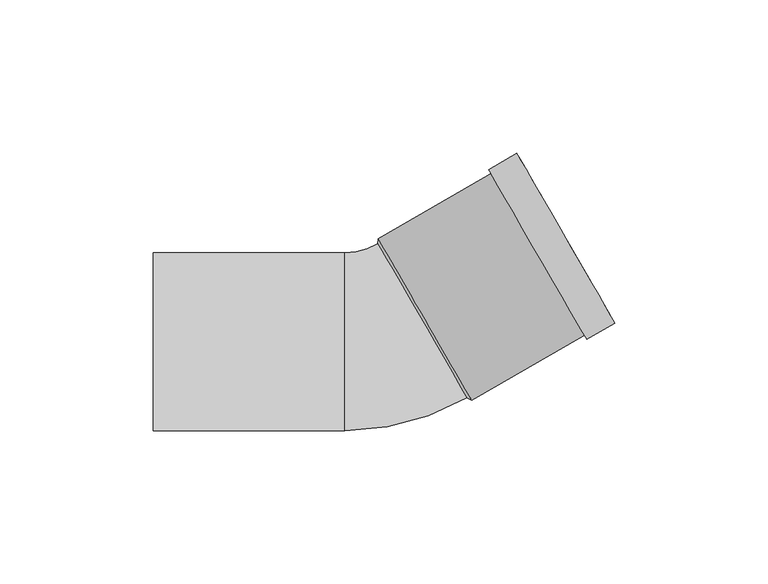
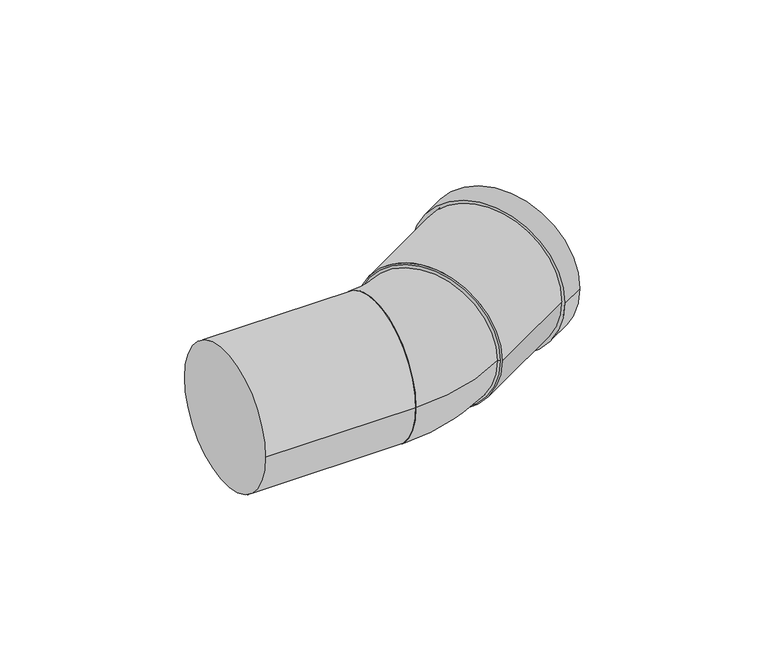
"""IFC4 building model written with IfcOpenShell, lengths in millimetres: pipe fitting geometry, Superdrain SKB Bend : Superdrain SKB Bend."""

from ifc_helpers import new_model, si_unit, point, frame, origin, origin_2d, place, context, project, spatial, polyline, circle_curve, ellipse_curve, trimmed, segment, composite_curve, outline, extrude, source, transform, mapped, element, save
from ifc_brep_helpers import plane_surface, revolved_surface, advanced_brep


def pipe_fitting_42c9a68a(model_context):
    return source(origin(), model_context, "Body", "SolidModel", [
        advanced_brep(
        [(26.2779455, -18.3147367, 0.0), (-2.7220545, 31.9147367, 0.0), (-13.6, -29.0, 0.0), (-13.6, 29.0, 0.0)],
        [
            (0, 1, circle_curve(frame((11.7779455, 6.8, 0.0), z_axis=(0.8660254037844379, 0.5000000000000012, 0.0), x_axis=(-0.5000000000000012, 0.8660254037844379, 0.0)), 29.0)),
            (1, 0, circle_curve(frame((11.7779455, 6.8, 0.0), z_axis=(0.8660254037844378, 0.5000000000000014, 0.0), x_axis=(-0.5000000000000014, 0.8660254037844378, 0.0)), 29.0)),
            (2, 3, circle_curve(frame((-13.6, 0.0, 0.0), z_axis=(-1.0, 0.0, 0.0), x_axis=(0.0, 1.0, 0.0)), 29.0)),
            (3, 2, circle_curve(frame((-13.6, 0.0, 0.0), z_axis=(-1.0, 0.0, 0.0), x_axis=(0.0, 1.0, 0.0)), 29.0)),
            (3, 1, circle_curve(frame((-13.6, 50.755891, 0.0), z_axis=(0.0, 0.0, 1.0), x_axis=(1.0, 0.0, 0.0)), 21.755891)),
            (0, 2, circle_curve(frame((-13.6, 50.755891, 0.0), z_axis=(0.0, 0.0, -1.0), x_axis=(1.0, 0.0, 0.0)), 79.755891)),
        ],
        [
            plane_surface(frame((11.7779455, 6.8, 0.0), z_axis=(0.8660254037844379, 0.5000000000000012, 0.0), x_axis=(0.0, 0.0, -1.0))),
            plane_surface(frame((-13.6, 0.0, 0.0), z_axis=(-1.0, 0.0, 0.0), x_axis=(0.0, 0.0, -1.0))),
            revolved_surface(trimmed(ellipse_curve(frame((37.155891, 50.755891, 0.0), z_axis=(0.0, -1.0, 0.0), x_axis=(-1.0, 0.0, 0.0)), 29.0, 29.0), [point((8.155891, 50.755891, 0.0))], [point((66.155891, 50.755891, 0.0))], True, "CARTESIAN"), (-13.6, 50.755891, 0.0), (0.0, 0.0, 1.0)),
            revolved_surface(trimmed(ellipse_curve(frame((37.155891, 50.755891, 0.0), z_axis=(0.0, -1.0, 0.0), x_axis=(-1.0, 0.0, 0.0)), 29.0, 29.0), [point((66.155891, 50.755891, 0.0))], [point((8.155891, 50.755891, 0.0))], True, "CARTESIAN"), (-13.6, 50.755891, 0.0), (0.0, 0.0, 1.0)),
        ],
        [
            (0, [[1, 2]]),
            (1, [[3, 4]]),
            (2, [[-4, 5, -1, 6]]),
            (3, [[-3, -6, -2, -5]]),
        ],
    ),
        extrude(outline(composite_curve([segment(trimmed(circle_curve(origin_2d(), 30.45), [point((0.0, 30.45))], [point((0.0, -30.45))], False, "CARTESIAN"), True, "CONTINUOUS"), segment(trimmed(circle_curve(origin_2d(), 30.45), [point((0.0, -30.45))], [point((0.0, 30.45))], False, "CARTESIAN"), True, "CONTINUOUS")], self_intersect=False), holes=[composite_curve([segment(trimmed(circle_curve(origin_2d(), 29.0), [point((0.0, 29.0))], [point((0.0, -29.0))], True, "CARTESIAN"), True, "CONTINUOUS"), segment(trimmed(circle_curve(origin_2d(), 29.0), [point((0.0, -29.0))], [point((0.0, 29.0))], True, "CARTESIAN"), True, "CONTINUOUS")], self_intersect=False)]), frame((12.6439709, 7.3, 0.0), z_axis=(0.866025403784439, 0.49999999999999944, 0.0), x_axis=(0.0, 0.0, 1.0)), (0.0, 0.0, 1.0), 53.0),
        extrude(outline(composite_curve([segment(trimmed(circle_curve(origin_2d(), 31.9725), [point((0.0, -31.9725))], [point((0.0, 31.9725))], False, "CARTESIAN"), True, "CONTINUOUS"), segment(trimmed(circle_curve(origin_2d(), 31.9725), [point((0.0, 31.9725))], [point((0.0, -31.9725))], False, "CARTESIAN"), True, "CONTINUOUS")], self_intersect=False), holes=[composite_curve([segment(trimmed(circle_curve(origin_2d(), 29.0), [point((0.0, -29.0))], [point((0.0, 29.0))], True, "CARTESIAN"), True, "CONTINUOUS"), segment(trimmed(circle_curve(origin_2d(), 29.0), [point((0.0, 29.0))], [point((0.0, -29.0))], True, "CARTESIAN"), True, "CONTINUOUS")], self_intersect=False)]), frame((49.363448, 28.5, 0.0), z_axis=(0.8660254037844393, 0.4999999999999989, 0.0), x_axis=(0.0, 0.0, 1.0)), (0.0, 0.0, 1.0), 10.6),
        advanced_brep(
        [(27.8689709, -19.0704735, 0.0), (-2.5810291, 33.6704735, 0.0), (26.2779455, -18.3147367, 0.0), (-2.7220545, 31.9147367, 0.0)],
        [
            (0, 1, circle_curve(frame((12.6439709, 7.3, 0.0), z_axis=(0.8660254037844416, 0.49999999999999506, 0.0), x_axis=(0.499999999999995, -0.8660254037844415, 0.0)), 30.45)),
            (1, 0, circle_curve(frame((12.6439709, 7.3, 0.0), z_axis=(0.8660254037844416, 0.49999999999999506, 0.0), x_axis=(-0.499999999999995, 0.8660254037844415, 0.0)), 30.45)),
            (2, 3, circle_curve(frame((11.7779455, 6.8, 0.0), z_axis=(-0.8660254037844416, -0.49999999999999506, 0.0), x_axis=(-0.499999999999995, 0.8660254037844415, 0.0)), 29.0)),
            (3, 2, circle_curve(frame((11.7779455, 6.8, 0.0), z_axis=(-0.8660254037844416, -0.49999999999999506, 0.0), x_axis=(0.499999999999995, -0.8660254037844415, 0.0)), 29.0)),
            (3, 1),
            (0, 2),
        ],
        [
            plane_surface(frame((12.6439709, 7.3, 0.0), z_axis=(0.8660254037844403, 0.4999999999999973, 0.0), x_axis=(0.0, 0.0, -1.0))),
            plane_surface(frame((11.7779455, 6.8, 0.0), z_axis=(-0.8660254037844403, -0.4999999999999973, 0.0), x_axis=(0.0, 0.0, -1.0))),
            revolved_surface(polyline([(-2.7220545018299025, 31.914736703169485, 0.0), (-2.5810290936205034, 33.6704735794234, 0.0)]), (-5.5425626, -3.2, 0.0), (0.8660254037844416, 0.49999999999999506, 0.0)),
            revolved_surface(polyline([(26.277945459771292, -18.314736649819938, 0.0), (27.868970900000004, -19.0704735, 0.0)]), (-5.5425626, -3.2, 0.0), (0.8660254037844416, 0.49999999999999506, 0.0)),
        ],
        [
            (0, [[1, 2]]),
            (1, [[3, 4]]),
            (2, [[-4, 5, -1, 6]]),
            (3, [[-3, -6, -2, -5]]),
        ],
    ),
        extrude(outline(composite_curve([segment(trimmed(circle_curve(origin_2d(), 29.0), [point((-29.0, 0.0))], [point((29.0, 0.0))], False, "CARTESIAN"), True, "CONTINUOUS"), segment(trimmed(circle_curve(origin_2d(), 29.0), [point((29.0, 0.0))], [point((-29.0, 0.0))], False, "CARTESIAN"), True, "CONTINUOUS")], self_intersect=False)), frame((-76.0, 0.0, 0.0), z_axis=(1.0, 0.0, 0.0), x_axis=(0.0, 1.0, 0.0)), (0.0, 0.0, 1.0), 62.4),
    ])


if __name__ == "__main__":
    model = new_model("IFC4")
    model_context = context("Model", 3, world=origin())
    ifc_project = project(units=[si_unit("LENGTHUNIT", "METRE", prefix="MILLI")], contexts=[model_context])
    site = spatial("IfcSite", under=ifc_project)
    building = spatial("IfcBuilding", under=site)
    placement = place(None, origin())
    pipe_fitting_shape = pipe_fitting_42c9a68a(model_context)
    element("IfcPipeFitting", 1, ObjectType="Superdrain SKB Bend : Superdrain SKB Bend", at=placement, inside=building, context=model_context, shape_type="MappedRepresentation", body=[
        mapped(pipe_fitting_shape, transform((0.0, 0.0, 0.0), x_axis=(1.0, 0.0, 0.0), y_axis=(0.0, 1.0, 0.0), z_axis=(0.0, 0.0, 1.0))),
    ])
    save(model, "model.ifc")
